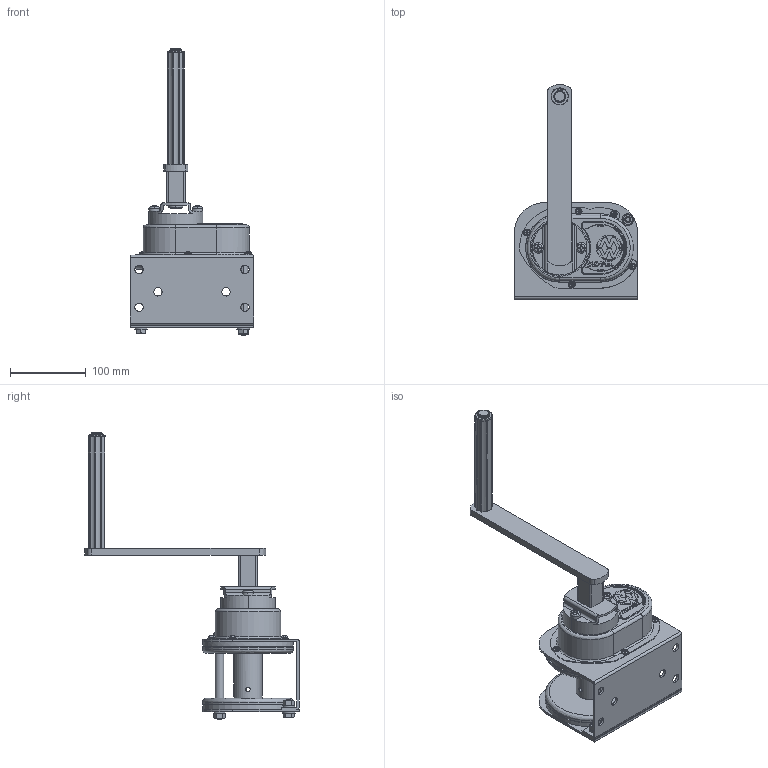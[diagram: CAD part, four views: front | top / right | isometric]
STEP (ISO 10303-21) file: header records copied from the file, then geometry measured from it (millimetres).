
FILE_DESCRIPTION( (''), '2;1');
FILE_NAME ('GM-1LH-SI-KEN.stp','2024-01-09T09:38:39',(''),(''),'spGate 19.8.2 (****-****-****-****)','','');
FILE_SCHEMA (('AUTOMOTIVE_DESIGN'));
Length unit declared in the file: millimetre
Products named in the file (3): Assembly; GM-1LH-SI-KEN-prt0; GM-1LH-SI-KEN-prt1
Assembly tree (2 placements, depth 2):
  Assembly
    GM-1LH-SI-KEN-prt0
    GM-1LH-SI-KEN-prt1
Bounding box: 163 x 283.92 x 379.1 mm (x, y, z)
Volume: 786164.3 mm3; surface area: 307897.7 mm2
Topology: 2 solids, 2 shells, 1347 faces, 3551 edges, 2305 vertices
Faces by surface type: plane 780, cylinder 430, bspline 123, sphere 14
Entity records: 72187 total; most frequent: CARTESIAN_POINT 11034, ORIENTED_EDGE 7098, DIRECTION 6653, COLOUR_RGB 4898, PRESENTATION_STYLE_ASSIGNMENT 4898, STYLED_ITEM 4898, EDGE_CURVE 3549, DRAUGHTING_PRE_DEFINED_CURVE_FONT 3549
